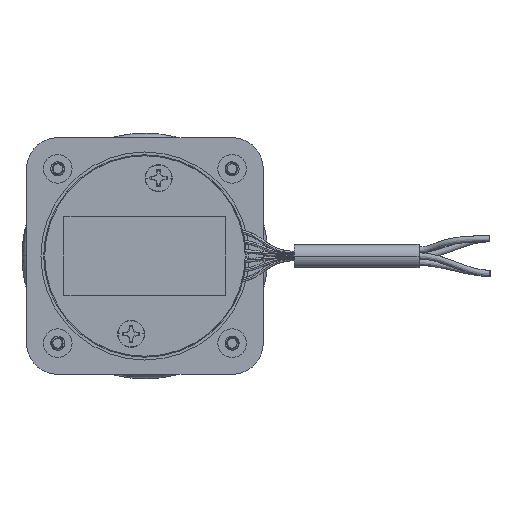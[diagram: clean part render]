
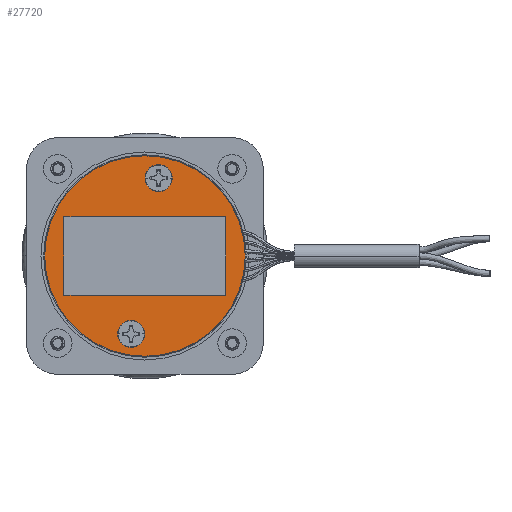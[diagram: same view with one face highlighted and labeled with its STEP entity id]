
A CAD part, front view. The second image highlights one B-rep face of the part: STEP entity #27720.
In plain terms, the highlighted planar face has unit normal (0, -1, 0).
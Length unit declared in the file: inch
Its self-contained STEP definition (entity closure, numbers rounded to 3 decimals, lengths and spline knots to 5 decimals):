
#49 = EDGE_CURVE ( 'NONE', #8605, #13955, #19799, .T. ) ;
#1348 = FACE_BOUND ( 'NONE', #14693, .T. ) ;
#1854 = CARTESIAN_POINT ( 'NONE',  ( 0., -0.49996, 0. ) ) ;
#1921 = DIRECTION ( 'NONE',  ( 0., -1., 0. ) ) ;
#3068 = LINE ( 'NONE', #18355, #41077 ) ;
#3522 = ORIENTED_EDGE ( 'NONE', *, *, #32878, .F. ) ;
#3559 = CIRCLE ( 'NONE', #31645, 0.10827 ) ;
#3736 = DIRECTION ( 'NONE',  ( -1., 0., 0. ) ) ;
#5860 = CARTESIAN_POINT ( 'NONE',  ( 0.21853, -0.49996, 0.62535 ) ) ;
#5919 = DIRECTION ( 'NONE',  ( 0., -1., 0. ) ) ;
#7248 = CARTESIAN_POINT ( 'NONE',  ( 0.65, -0.49996, -0.315 ) ) ;
#7264 = AXIS2_PLACEMENT_3D ( 'NONE', #28399, #43751, #9272 ) ;
#7559 = LINE ( 'NONE', #22883, #16866 ) ;
#8605 = VERTEX_POINT ( 'NONE', #19605 ) ;
#9272 = DIRECTION ( 'NONE',  ( 1., 0., 0. ) ) ;
#9618 = CIRCLE ( 'NONE', #37752, 0.805 ) ;
#9738 = DIRECTION ( 'NONE',  ( -1., 0., 0. ) ) ;
#10398 = VERTEX_POINT ( 'NONE', #14905 ) ;
#10966 = AXIS2_PLACEMENT_3D ( 'NONE', #28831, #44209, #9738 ) ;
#11067 = DIRECTION ( 'NONE',  ( 1., 0., 0. ) ) ;
#12041 = ORIENTED_EDGE ( 'NONE', *, *, #30509, .F. ) ;
#12244 = VERTEX_POINT ( 'NONE', #38661 ) ;
#12614 = CARTESIAN_POINT ( 'NONE',  ( 0.65, -0.49996, -0.315 ) ) ;
#13072 = EDGE_CURVE ( 'NONE', #37934, #12244, #7559, .T. ) ;
#13229 = EDGE_CURVE ( 'NONE', #14433, #14813, #28928, .T. ) ;
#13280 = EDGE_CURVE ( 'NONE', #12244, #10398, #32445, .T. ) ;
#13291 = DIRECTION ( 'NONE',  ( 0., 0., -1. ) ) ;
#13955 = VERTEX_POINT ( 'NONE', #5860 ) ;
#14433 = VERTEX_POINT ( 'NONE', #27792 ) ;
#14693 = EDGE_LOOP ( 'NONE', ( #45472, #3522 ) ) ;
#14813 = VERTEX_POINT ( 'NONE', #26975 ) ;
#14905 = CARTESIAN_POINT ( 'NONE',  ( -0.65, -0.49996, -0.315 ) ) ;
#15556 = EDGE_CURVE ( 'NONE', #30290, #37934, #41703, .T. ) ;
#16644 = FACE_BOUND ( 'NONE', #17965, .T. ) ;
#16866 = VECTOR ( 'NONE', #38246, 39.37008 ) ;
#17133 = ORIENTED_EDGE ( 'NONE', *, *, #13280, .F. ) ;
#17144 = DIRECTION ( 'NONE',  ( 0., 1., 0. ) ) ;
#17204 = DIRECTION ( 'NONE',  ( -1., 0., 0. ) ) ;
#17965 = EDGE_LOOP ( 'NONE', ( #44606, #12041 ) ) ;
#18355 = CARTESIAN_POINT ( 'NONE',  ( -0.65, -0.49996, -0.315 ) ) ;
#18424 = VERTEX_POINT ( 'NONE', #25313 ) ;
#18760 = AXIS2_PLACEMENT_3D ( 'NONE', #36336, #1921, #17204 ) ;
#19605 = CARTESIAN_POINT ( 'NONE',  ( 0.002, -0.49996, 0.62535 ) ) ;
#19799 = CIRCLE ( 'NONE', #10966, 0.10827 ) ;
#20099 = VECTOR ( 'NONE', #13291, 39.37008 ) ;
#21182 = VERTEX_POINT ( 'NONE', #29343 ) ;
#21204 = DIRECTION ( 'NONE',  ( -1., 0., 0. ) ) ;
#21302 = EDGE_CURVE ( 'NONE', #10398, #30290, #3068, .T. ) ;
#21786 = AXIS2_PLACEMENT_3D ( 'NONE', #1854, #17144, #32508 ) ;
#22574 = DIRECTION ( 'NONE',  ( 0., 0., 1. ) ) ;
#22802 = CARTESIAN_POINT ( 'NONE',  ( 0.11027, -0.49996, 0.62535 ) ) ;
#22883 = CARTESIAN_POINT ( 'NONE',  ( -0.65, -0.49996, 0.315 ) ) ;
#25313 = CARTESIAN_POINT ( 'NONE',  ( -0.21853, -0.49996, -0.62535 ) ) ;
#26975 = CARTESIAN_POINT ( 'NONE',  ( 0.805, -0.49996, 0. ) ) ;
#27100 = ORIENTED_EDGE ( 'NONE', *, *, #13229, .F. ) ;
#27494 = AXIS2_PLACEMENT_3D ( 'NONE', #22802, #38175, #3736 ) ;
#27720 = ADVANCED_FACE ( 'NONE', ( #35781, #1348, #16644, #31992 ), #47316, .F. ) ;
#27792 = CARTESIAN_POINT ( 'NONE',  ( -0.805, -0.49996, 0. ) ) ;
#28399 = CARTESIAN_POINT ( 'NONE',  ( 0., -0.49996, 0. ) ) ;
#28831 = CARTESIAN_POINT ( 'NONE',  ( 0.11027, -0.49996, 0.62535 ) ) ;
#28928 = CIRCLE ( 'NONE', #7264, 0.805 ) ;
#29343 = CARTESIAN_POINT ( 'NONE',  ( -0.002, -0.49996, -0.62535 ) ) ;
#30187 = CARTESIAN_POINT ( 'NONE',  ( 0., -0.49996, 0. ) ) ;
#30290 = VERTEX_POINT ( 'NONE', #12614 ) ;
#30509 = EDGE_CURVE ( 'NONE', #21182, #18424, #40463, .T. ) ;
#30554 = EDGE_CURVE ( 'NONE', #18424, #21182, #3559, .T. ) ;
#30663 = VECTOR ( 'NONE', #22574, 39.37008 ) ;
#31357 = ORIENTED_EDGE ( 'NONE', *, *, #47150, .F. ) ;
#31645 = AXIS2_PLACEMENT_3D ( 'NONE', #40360, #5919, #21204 ) ;
#31992 = FACE_OUTER_BOUND ( 'NONE', #46783, .T. ) ;
#32445 = LINE ( 'NONE', #47780, #20099 ) ;
#32508 = DIRECTION ( 'NONE',  ( 1., 0., 0. ) ) ;
#32878 = EDGE_CURVE ( 'NONE', #13955, #8605, #49202, .T. ) ;
#32953 = CARTESIAN_POINT ( 'NONE',  ( 0.65, -0.49996, 0.315 ) ) ;
#33744 = DIRECTION ( 'NONE',  ( 1., 0., 0. ) ) ;
#34088 = ORIENTED_EDGE ( 'NONE', *, *, #21302, .F. ) ;
#35781 = FACE_BOUND ( 'NONE', #36839, .T. ) ;
#36052 = ORIENTED_EDGE ( 'NONE', *, *, #15556, .F. ) ;
#36336 = CARTESIAN_POINT ( 'NONE',  ( -0.11027, -0.49996, -0.62535 ) ) ;
#36839 = EDGE_LOOP ( 'NONE', ( #17133, #40809, #36052, #34088 ) ) ;
#37752 = AXIS2_PLACEMENT_3D ( 'NONE', #30187, #45564, #11067 ) ;
#37934 = VERTEX_POINT ( 'NONE', #32953 ) ;
#38175 = DIRECTION ( 'NONE',  ( 0., -1., 0. ) ) ;
#38246 = DIRECTION ( 'NONE',  ( -1., 0., 0. ) ) ;
#38661 = CARTESIAN_POINT ( 'NONE',  ( -0.65, -0.49996, 0.315 ) ) ;
#40360 = CARTESIAN_POINT ( 'NONE',  ( -0.11027, -0.49996, -0.62535 ) ) ;
#40463 = CIRCLE ( 'NONE', #18760, 0.10827 ) ;
#40809 = ORIENTED_EDGE ( 'NONE', *, *, #13072, .F. ) ;
#41077 = VECTOR ( 'NONE', #33744, 39.37008 ) ;
#41703 = LINE ( 'NONE', #7248, #30663 ) ;
#43751 = DIRECTION ( 'NONE',  ( 0., 1., 0. ) ) ;
#44209 = DIRECTION ( 'NONE',  ( 0., -1., 0. ) ) ;
#44606 = ORIENTED_EDGE ( 'NONE', *, *, #30554, .F. ) ;
#45472 = ORIENTED_EDGE ( 'NONE', *, *, #49, .F. ) ;
#45564 = DIRECTION ( 'NONE',  ( 0., 1., 0. ) ) ;
#46783 = EDGE_LOOP ( 'NONE', ( #27100, #31357 ) ) ;
#47150 = EDGE_CURVE ( 'NONE', #14813, #14433, #9618, .T. ) ;
#47316 = PLANE ( 'NONE',  #21786 ) ;
#47780 = CARTESIAN_POINT ( 'NONE',  ( -0.65, -0.49996, -0.315 ) ) ;
#49202 = CIRCLE ( 'NONE', #27494, 0.10827 ) ;
